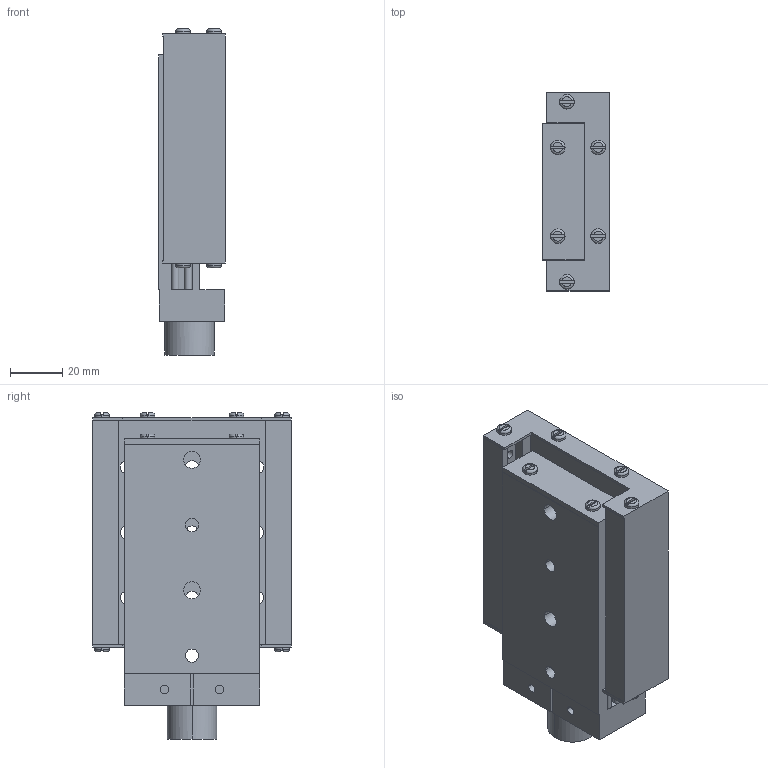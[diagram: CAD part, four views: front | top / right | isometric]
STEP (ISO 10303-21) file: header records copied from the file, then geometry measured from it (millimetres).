
FILE_DESCRIPTION((''),'2;1');
FILE_NAME('860-0040_SW0001','2014-08-01T',('Julija'),(''),'PRO/ENGINEER BY PARAMETRIC TECHNOLOGY CORPORATION, 2014090','PRO/ENGINEER BY PARAMETRIC TECHNOLOGY CORPORATION, 2014090','');
FILE_SCHEMA(('CONFIG_CONTROL_DESIGN'));
Length unit declared in the file: inch
Products named in the file (1): 860-0040_SW0001
Bounding box: 26 x 76 x 124.97 mm (x, y, z)
Volume: 152484.4 mm3; surface area: 54435.1 mm2
Topology: 2 solids, 2 shells, 421 faces, 1116 edges, 692 vertices
Faces by surface type: plane 212, cylinder 117, cone 60, torus 32
Entity records: 14288 total; most frequent: CARTESIAN_POINT 3565, DIRECTION 2306, ORIENTED_EDGE 2208, EDGE_CURVE 1104, AXIS2_PLACEMENT_3D 869, VERTEX_POINT 692, VECTOR 568, LINE 568
